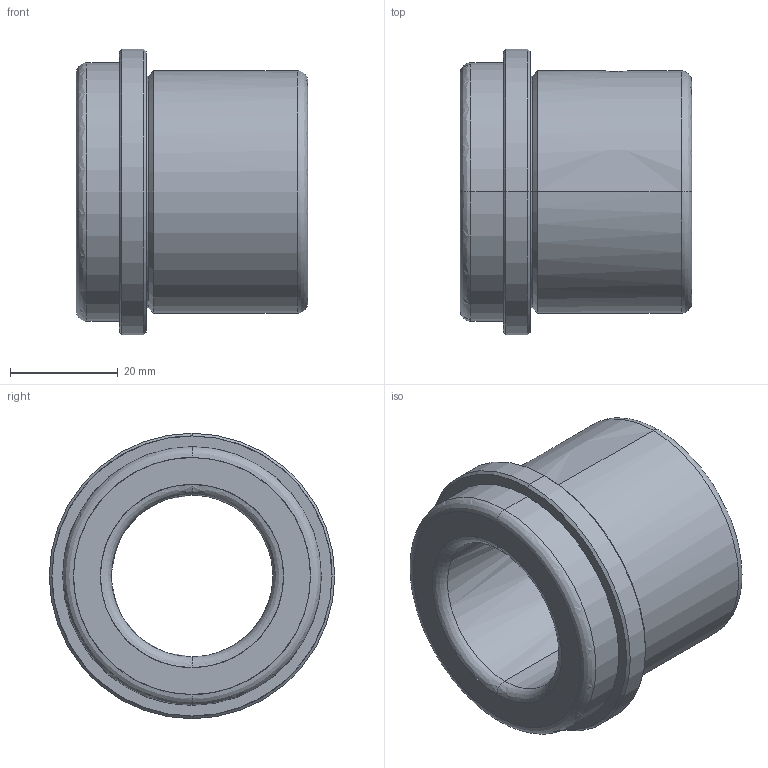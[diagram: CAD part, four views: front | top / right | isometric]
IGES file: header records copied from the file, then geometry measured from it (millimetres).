
Start section: START RECORD GO HERE.
Global section: file name: CF 631 30 x 43.igs; native system: DASSAULT SYSTEMES CATIA V5 R20 - www.3ds.com; preprocessor: CATIA Version 5 Release 20 ; author: Utente; organization: NB04-ASUS; date: 20201226.201920; units: millimetre
Bounding box: 43 x 53 x 53 mm (x, y, z)
Surface area: 13285.3 mm2 (no closed solid volume)
Topology: 0 solids, 0 shells, 33 faces, 212 edges, 212 vertices
Faces by surface type: revolution 28, plane 5
